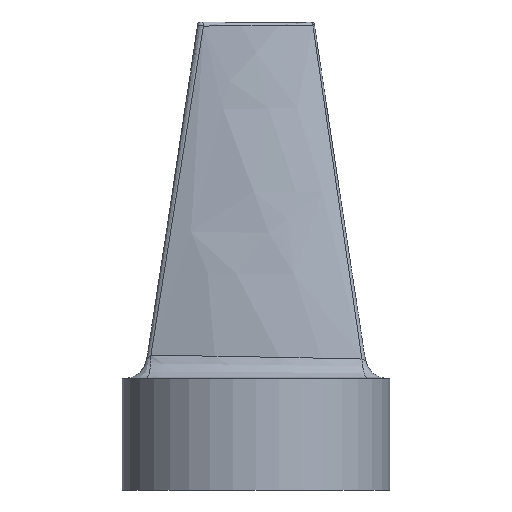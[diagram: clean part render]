
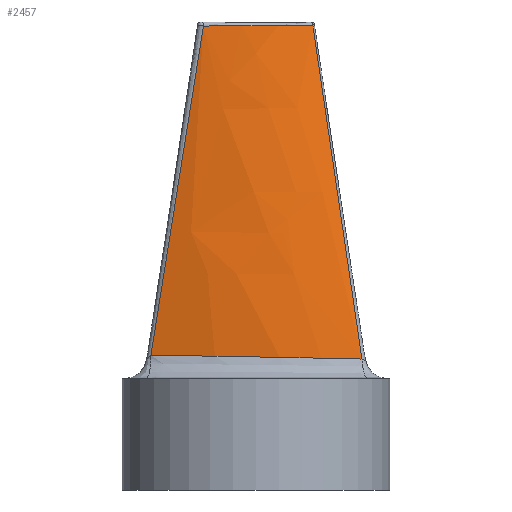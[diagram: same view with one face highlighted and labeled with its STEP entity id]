
A CAD part, left-side view. The second image highlights one B-rep face of the part: STEP entity #2457.
In plain terms, the highlighted free-form (B-spline) face has degree [1, 3] with [2, 13] control points.
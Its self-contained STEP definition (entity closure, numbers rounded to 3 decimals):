
#218=CARTESIAN_POINT('',(-1.423,23.593,5.243));
#219=VERTEX_POINT('',#218);
#282=CARTESIAN_POINT('',(-0.579,-23.786,4.382));
#283=VERTEX_POINT('',#282);
#297=CARTESIAN_POINT('',(-1.423,23.593,5.243));
#298=CARTESIAN_POINT('',(-1.865,21.646,5.216));
#299=CARTESIAN_POINT('',(-2.247,19.689,5.188));
#300=CARTESIAN_POINT('',(-2.732,16.737,5.143));
#301=CARTESIAN_POINT('',(-2.878,15.751,5.128));
#302=CARTESIAN_POINT('',(-3.142,13.773,5.097));
#303=CARTESIAN_POINT('',(-3.259,12.782,5.081));
#304=CARTESIAN_POINT('',(-3.563,9.807,5.032));
#305=CARTESIAN_POINT('',(-3.707,7.82,4.999));
#306=CARTESIAN_POINT('',(-3.832,4.834,4.947));
#307=CARTESIAN_POINT('',(-3.859,3.838,4.93));
#308=CARTESIAN_POINT('',(-3.882,1.844,4.894));
#309=CARTESIAN_POINT('',(-3.879,0.845,4.876));
#310=CARTESIAN_POINT('',(-3.824,-2.146,4.821));
#311=CARTESIAN_POINT('',(-3.728,-4.135,4.784));
#312=CARTESIAN_POINT('',(-3.494,-7.114,4.727));
#313=CARTESIAN_POINT('',(-3.402,-8.106,4.707));
#314=CARTESIAN_POINT('',(-3.187,-10.088,4.668));
#315=CARTESIAN_POINT('',(-3.064,-11.079,4.649));
#316=CARTESIAN_POINT('',(-2.652,-14.043,4.589));
#317=CARTESIAN_POINT('',(-2.319,-16.007,4.549));
#318=CARTESIAN_POINT('',(-1.732,-18.937,4.488));
#319=CARTESIAN_POINT('',(-1.522,-19.911,4.467));
#320=CARTESIAN_POINT('',(-1.185,-21.367,4.437));
#321=CARTESIAN_POINT('',(-1.069,-21.852,4.426));
#322=CARTESIAN_POINT('',(-0.829,-22.82,4.406));
#323=CARTESIAN_POINT('',(-0.706,-23.303,4.395));
#324=CARTESIAN_POINT('',(-0.579,-23.785,4.385));
#325=B_SPLINE_CURVE_WITH_KNOTS('',3,(#297,#298,#299,#300,#301,#302,#303,#304,#305,#306,#307,#308,#309,#310,#311,#312,#313,#314,#315,#316,#317,#318,#319,#320,#321,#322,#323,#324),.UNSPECIFIED.,.F.,.U.,(4,2,2,2,2,2,2,2,2,2,2,2,2,4),(0.0,0.125,0.188,0.25,0.375,0.438,0.5,0.625,0.688,0.75,0.875,0.938,0.969,1.0),.UNSPECIFIED.);
#326=EDGE_CURVE('',#219,#283,#325,.T.);
#1228=CARTESIAN_POINT('',(-1.424,23.591,5.26));
#1229=VERTEX_POINT('',#1228);
#1230=CARTESIAN_POINT('',(-1.424,23.591,5.26));
#1231=CARTESIAN_POINT('',(-1.423,23.592,5.254));
#1232=CARTESIAN_POINT('',(-1.423,23.593,5.249));
#1233=CARTESIAN_POINT('',(-1.423,23.593,5.243));
#1234=B_SPLINE_CURVE_WITH_KNOTS('',3,(#1230,#1231,#1232,#1233),.UNSPECIFIED.,.F.,.U.,(4,4),(0.0,0.),.UNSPECIFIED.);
#1235=EDGE_CURVE('',#1229,#219,#1234,.T.);
#2230=CARTESIAN_POINT('',(6.101,-12.749,79.327));
#2231=VERTEX_POINT('',#2230);
#2232=CARTESIAN_POINT('',(-0.97,-24.431,0.0));
#2233=CARTESIAN_POINT('',(6.161,-12.65,80.0));
#2234=QUASI_UNIFORM_CURVE('',1,(#2232,#2233),.UNSPECIFIED.,.F.,.U.);
#2235=EDGE_CURVE('',#2231,#283,#2234,.F.);
#2335=CARTESIAN_POINT('',(-7.796,11.806,79.09));
#2336=VERTEX_POINT('',#2335);
#2337=CARTESIAN_POINT('',(-0.97,24.431,0.0));
#2338=CARTESIAN_POINT('',(-7.875,11.66,80.0));
#2339=QUASI_UNIFORM_CURVE('',1,(#2337,#2338),.UNSPECIFIED.,.F.,.U.);
#2340=EDGE_CURVE('',#1229,#2336,#2339,.T.);
#2391=CARTESIAN_POINT('',(-0.97,-24.431,0.0));
#2392=CARTESIAN_POINT('',(6.161,-12.65,80.0));
#2393=CARTESIAN_POINT('',(-1.976,-20.437,0.0));
#2394=CARTESIAN_POINT('',(4.708,-10.806,80.));
#2395=CARTESIAN_POINT('',(-2.734,-16.389,0.0));
#2396=CARTESIAN_POINT('',(3.322,-8.91,80.));
#2397=CARTESIAN_POINT('',(-3.746,-8.23,0.0));
#2398=CARTESIAN_POINT('',(0.688,-5.024,80.0));
#2399=CARTESIAN_POINT('',(-4.,-4.119,0.0));
#2400=CARTESIAN_POINT('',(-0.558,-3.033,80.0));
#2401=CARTESIAN_POINT('',(-4.,4.119,0.0));
#2402=CARTESIAN_POINT('',(-2.906,1.033,80.0));
#2403=CARTESIAN_POINT('',(-3.746,8.23,0.0));
#2404=CARTESIAN_POINT('',(-4.006,3.108,80.0));
#2405=CARTESIAN_POINT('',(-2.734,16.389,0.0));
#2406=CARTESIAN_POINT('',(-6.056,7.332,80.0));
#2407=CARTESIAN_POINT('',(-1.976,20.437,0.0));
#2408=CARTESIAN_POINT('',(-7.005,9.48,80.0));
#2409=CARTESIAN_POINT('',(-0.97,24.431,0.0));
#2410=CARTESIAN_POINT('',(-7.875,11.66,80.0));
#2411=CARTESIAN_POINT('',(-0.929,24.591,0.0));
#2412=CARTESIAN_POINT('',(-7.91,11.748,80.0));
#2413=CARTESIAN_POINT('',(-0.889,24.751,0.0));
#2414=CARTESIAN_POINT('',(-7.945,11.835,80.0));
#2415=CARTESIAN_POINT('',(-0.849,24.91,0.0));
#2416=CARTESIAN_POINT('',(-7.979,11.922,80.0));
#2417=B_SPLINE_SURFACE_WITH_KNOTS('',1,3,((#2391,#2393,#2395,#2397,#2399,#2401,#2403,#2405,#2407,#2409,#2411,#2413,#2415),(#2392,#2394,#2396,#2398,#2400,#2402,#2404,#2406,#2408,#2410,#2412,#2414,#2416)),.UNSPECIFIED.,.F.,.F.,.U.,(2,2),(4,2,2,2,3,4),(0.0,1.0),(0.0,0.25,0.5,0.75,1.0,1.01),.UNSPECIFIED.);
#2418=ORIENTED_EDGE('',*,*,#2340,.F.);
#2419=ORIENTED_EDGE('',*,*,#1235,.T.);
#2420=ORIENTED_EDGE('',*,*,#326,.T.);
#2421=ORIENTED_EDGE('',*,*,#2235,.F.);
#2422=CARTESIAN_POINT('',(-7.796,11.806,79.091));
#2423=VERTEX_POINT('',#2422);
#2424=CARTESIAN_POINT('',(6.101,-12.749,79.327));
#2425=CARTESIAN_POINT('',(5.374,-11.818,79.318));
#2426=CARTESIAN_POINT('',(4.664,-10.873,79.31));
#2427=CARTESIAN_POINT('',(3.282,-8.96,79.291));
#2428=CARTESIAN_POINT('',(2.609,-7.991,79.282));
#2429=CARTESIAN_POINT('',(0.645,-5.05,79.254));
#2430=CARTESIAN_POINT('',(-0.593,-3.042,79.235));
#2431=CARTESIAN_POINT('',(-2.921,1.07,79.195));
#2432=CARTESIAN_POINT('',(-4.006,3.164,79.174));
#2433=CARTESIAN_POINT('',(-5.516,6.362,79.143));
#2434=CARTESIAN_POINT('',(-6.,7.438,79.133));
#2435=CARTESIAN_POINT('',(-6.928,9.608,79.112));
#2436=CARTESIAN_POINT('',(-7.373,10.703,79.101));
#2437=CARTESIAN_POINT('',(-7.796,11.806,79.091));
#2438=B_SPLINE_CURVE_WITH_KNOTS('',3,(#2424,#2425,#2426,#2427,#2428,#2429,#2430,#2431,#2432,#2433,#2434,#2435,#2436,#2437),.UNSPECIFIED.,.F.,.U.,(4,2,2,2,2,2,4),(0.0,0.125,0.25,0.5,0.75,0.875,1.0),.UNSPECIFIED.);
#2439=EDGE_CURVE('',#2231,#2423,#2438,.T.);
#2440=ORIENTED_EDGE('',*,*,#2439,.T.);
#2441=CARTESIAN_POINT('',(-7.796,11.806,79.091));
#2442=CARTESIAN_POINT('',(-7.796,11.806,79.091));
#2443=CARTESIAN_POINT('',(-7.796,11.806,79.091));
#2444=CARTESIAN_POINT('',(-7.796,11.806,79.091));
#2445=B_SPLINE_CURVE_WITH_KNOTS('',3,(#2441,#2442,#2443,#2444),.UNSPECIFIED.,.F.,.U.,(4,4),(1.,1.),.UNSPECIFIED.);
#2446=EDGE_CURVE('',#2423,#2423,#2445,.T.);
#2447=ORIENTED_EDGE('',*,*,#2446,.T.);
#2448=CARTESIAN_POINT('',(-7.796,11.806,79.091));
#2449=CARTESIAN_POINT('',(-7.796,11.806,79.09));
#2450=CARTESIAN_POINT('',(-7.796,11.806,79.09));
#2451=CARTESIAN_POINT('',(-7.796,11.806,79.09));
#2452=B_SPLINE_CURVE_WITH_KNOTS('',3,(#2448,#2449,#2450,#2451),.UNSPECIFIED.,.F.,.U.,(4,4),(0.0,0.),.UNSPECIFIED.);
#2453=EDGE_CURVE('',#2423,#2336,#2452,.T.);
#2454=ORIENTED_EDGE('',*,*,#2453,.T.);
#2455=EDGE_LOOP('',(#2418,#2419,#2420,#2421,#2440,#2447,#2454));
#2456=FACE_OUTER_BOUND('',#2455,.T.);
#2457=ADVANCED_FACE('',(#2456),#2417,.T.);
